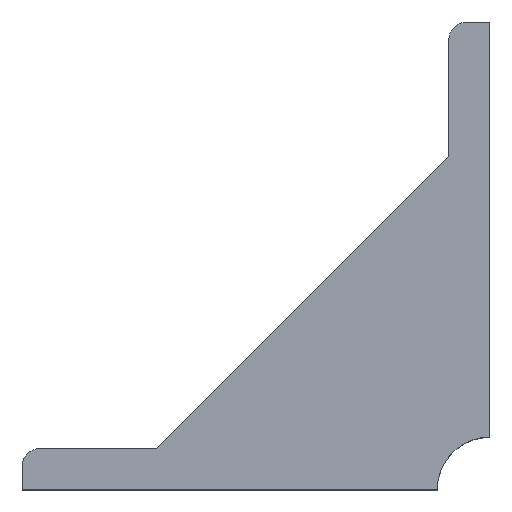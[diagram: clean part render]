
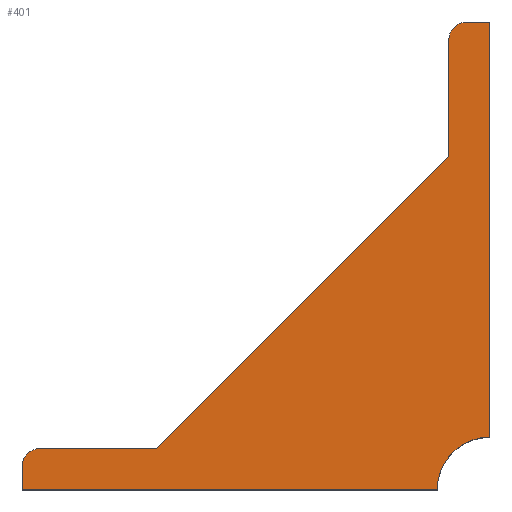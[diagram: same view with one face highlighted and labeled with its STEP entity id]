
A CAD part, top view. The second image highlights one B-rep face of the part: STEP entity #401.
In plain terms, the highlighted planar face has unit normal (0, 0, 1).
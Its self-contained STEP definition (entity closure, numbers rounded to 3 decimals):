
#17 = CARTESIAN_POINT ( 'NONE',  ( -46.669, -32.504, 35. ) ) ;
#26 = LINE ( 'NONE', #814, #216 ) ;
#77 = EDGE_CURVE ( 'NONE', #536, #826, #460, .T. ) ;
#78 = ORIENTED_EDGE ( 'NONE', *, *, #544, .T. ) ;
#82 = DIRECTION ( 'NONE',  ( 0.707, 0.707, 0. ) ) ;
#97 = LINE ( 'NONE', #17, #340 ) ;
#111 = ORIENTED_EDGE ( 'NONE', *, *, #370, .T. ) ;
#132 = AXIS2_PLACEMENT_3D ( 'NONE', #419, #204, #912 ) ;
#147 = CARTESIAN_POINT ( 'NONE',  ( -46.669, -32.504, 35. ) ) ;
#159 = CARTESIAN_POINT ( 'NONE',  ( 33.331, -32.504, 35. ) ) ;
#182 = CARTESIAN_POINT ( 'NONE',  ( 26.331, 44.496, 35. ) ) ;
#192 = CARTESIAN_POINT ( 'NONE',  ( 33.331, -32.504, 35. ) ) ;
#195 = ORIENTED_EDGE ( 'NONE', *, *, #719, .T. ) ;
#196 = CARTESIAN_POINT ( 'NONE',  ( 29.331, 47.496, 35. ) ) ;
#203 = CARTESIAN_POINT ( 'NONE',  ( 33.331, 47.496, 35. ) ) ;
#204 = DIRECTION ( 'NONE',  ( 0., 0., -1. ) ) ;
#216 = VECTOR ( 'NONE', #238, 1000. ) ;
#236 = ORIENTED_EDGE ( 'NONE', *, *, #1081, .T. ) ;
#238 = DIRECTION ( 'NONE',  ( 0., -1., 0. ) ) ;
#262 = EDGE_CURVE ( 'NONE', #874, #1284, #456, .T. ) ;
#282 = CARTESIAN_POINT ( 'NONE',  ( -23.669, -25.504, 35. ) ) ;
#289 = AXIS2_PLACEMENT_3D ( 'NONE', #159, #463, #676 ) ;
#294 = LINE ( 'NONE', #192, #817 ) ;
#319 = VERTEX_POINT ( 'NONE', #978 ) ;
#322 = ORIENTED_EDGE ( 'NONE', *, *, #966, .F. ) ;
#340 = VECTOR ( 'NONE', #502, 1000. ) ;
#358 = DIRECTION ( 'NONE',  ( -1., 0., 0. ) ) ;
#368 = VERTEX_POINT ( 'NONE', #196 ) ;
#370 = EDGE_CURVE ( 'NONE', #1028, #368, #593, .T. ) ;
#380 = CARTESIAN_POINT ( 'NONE',  ( -46.669, -25.504, 35. ) ) ;
#389 = VERTEX_POINT ( 'NONE', #992 ) ;
#393 = DIRECTION ( 'NONE',  ( 0., -1., 0. ) ) ;
#401 = ADVANCED_FACE ( 'NONE', ( #598 ), #1087, .F. ) ;
#419 = CARTESIAN_POINT ( 'NONE',  ( 0., 0., 35. ) ) ;
#456 = LINE ( 'NONE', #380, #731 ) ;
#460 = LINE ( 'NONE', #147, #714 ) ;
#463 = DIRECTION ( 'NONE',  ( 0., 0., 1. ) ) ;
#480 = ORIENTED_EDGE ( 'NONE', *, *, #894, .F. ) ;
#490 = EDGE_CURVE ( 'NONE', #1028, #319, #294, .T. ) ;
#502 = DIRECTION ( 'NONE',  ( -1., 0., 0. ) ) ;
#536 = VERTEX_POINT ( 'NONE', #920 ) ;
#541 = CIRCLE ( 'NONE', #870, 3. ) ;
#544 = EDGE_CURVE ( 'NONE', #1276, #899, #26, .T. ) ;
#577 = CARTESIAN_POINT ( 'NONE',  ( 33.331, 47.496, 35. ) ) ;
#582 = CARTESIAN_POINT ( 'NONE',  ( -43.669, -25.504, 35. ) ) ;
#593 = LINE ( 'NONE', #577, #1216 ) ;
#598 = FACE_OUTER_BOUND ( 'NONE', #1196, .T. ) ;
#654 = CIRCLE ( 'NONE', #289, 9. ) ;
#670 = DIRECTION ( 'NONE',  ( 0., 0., 1. ) ) ;
#676 = DIRECTION ( 'NONE',  ( 1., 0., 0. ) ) ;
#711 = VECTOR ( 'NONE', #82, 1000. ) ;
#714 = VECTOR ( 'NONE', #751, 1000. ) ;
#719 = EDGE_CURVE ( 'NONE', #1284, #826, #1246, .T. ) ;
#720 = EDGE_CURVE ( 'NONE', #319, #389, #654, .T. ) ;
#731 = VECTOR ( 'NONE', #358, 1000. ) ;
#748 = LINE ( 'NONE', #863, #711 ) ;
#751 = DIRECTION ( 'NONE',  ( 0., 1., 0. ) ) ;
#814 = CARTESIAN_POINT ( 'NONE',  ( 26.331, -32.504, 35. ) ) ;
#817 = VECTOR ( 'NONE', #393, 1000. ) ;
#824 = AXIS2_PLACEMENT_3D ( 'NONE', #1068, #670, #955 ) ;
#826 = VERTEX_POINT ( 'NONE', #1261 ) ;
#831 = ORIENTED_EDGE ( 'NONE', *, *, #720, .F. ) ;
#832 = DIRECTION ( 'NONE',  ( -1., 0., 0. ) ) ;
#863 = CARTESIAN_POINT ( 'NONE',  ( -23.669, -25.504, 35. ) ) ;
#870 = AXIS2_PLACEMENT_3D ( 'NONE', #1035, #1128, #832 ) ;
#874 = VERTEX_POINT ( 'NONE', #282 ) ;
#894 = EDGE_CURVE ( 'NONE', #874, #899, #748, .T. ) ;
#899 = VERTEX_POINT ( 'NONE', #1151 ) ;
#912 = DIRECTION ( 'NONE',  ( -1., 0., 0. ) ) ;
#920 = CARTESIAN_POINT ( 'NONE',  ( -46.669, -32.504, 35. ) ) ;
#955 = DIRECTION ( 'NONE',  ( -1., 0., 0. ) ) ;
#966 = EDGE_CURVE ( 'NONE', #389, #536, #97, .T. ) ;
#978 = CARTESIAN_POINT ( 'NONE',  ( 33.331, -23.504, 35. ) ) ;
#982 = DIRECTION ( 'NONE',  ( -1., 0., 0. ) ) ;
#992 = CARTESIAN_POINT ( 'NONE',  ( 24.331, -32.504, 35. ) ) ;
#997 = ORIENTED_EDGE ( 'NONE', *, *, #490, .F. ) ;
#1028 = VERTEX_POINT ( 'NONE', #203 ) ;
#1035 = CARTESIAN_POINT ( 'NONE',  ( 29.331, 44.496, 35. ) ) ;
#1068 = CARTESIAN_POINT ( 'NONE',  ( -43.669, -28.504, 35. ) ) ;
#1081 = EDGE_CURVE ( 'NONE', #368, #1276, #541, .T. ) ;
#1087 = PLANE ( 'NONE',  #132 ) ;
#1128 = DIRECTION ( 'NONE',  ( 0., 0., 1. ) ) ;
#1132 = ORIENTED_EDGE ( 'NONE', *, *, #77, .F. ) ;
#1151 = CARTESIAN_POINT ( 'NONE',  ( 26.331, 24.496, 35. ) ) ;
#1196 = EDGE_LOOP ( 'NONE', ( #111, #236, #78, #480, #1212, #195, #1132, #322, #831, #997 ) ) ;
#1212 = ORIENTED_EDGE ( 'NONE', *, *, #262, .T. ) ;
#1216 = VECTOR ( 'NONE', #982, 1000. ) ;
#1246 = CIRCLE ( 'NONE', #824, 3. ) ;
#1261 = CARTESIAN_POINT ( 'NONE',  ( -46.669, -28.504, 35. ) ) ;
#1276 = VERTEX_POINT ( 'NONE', #182 ) ;
#1284 = VERTEX_POINT ( 'NONE', #582 ) ;
